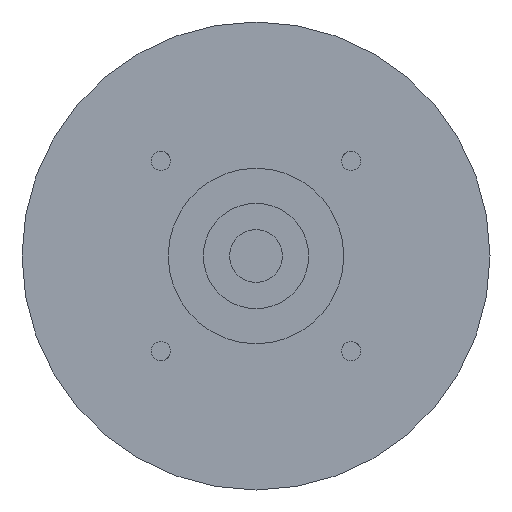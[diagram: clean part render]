
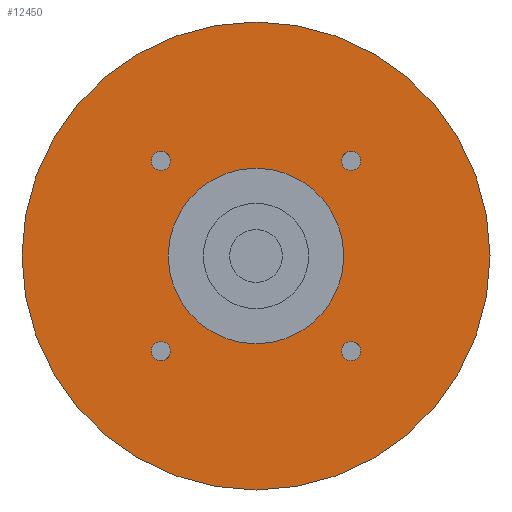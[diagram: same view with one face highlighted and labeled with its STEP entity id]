
A CAD part, left-side view. The second image highlights one B-rep face of the part: STEP entity #12450.
In plain terms, the highlighted planar face has unit normal (-1, 0, 0) as drawn and (0, 0, -1) by its records, which use the part's own axes.
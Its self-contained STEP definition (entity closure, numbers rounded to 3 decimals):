
#8680=CARTESIAN_POINT('',(14.613,-16.263,-42.2));
#8690=VERTEX_POINT('',#8680);
#8740=CARTESIAN_POINT('',(16.263,-16.263,-42.2));
#8750=DIRECTION('',(0.,0.,-1.));
#8760=DIRECTION('',(1.,0.,0.));
#8770=AXIS2_PLACEMENT_3D('',#8740,#8750,#8760);
#8780=CIRCLE('',#8770,1.65);
#8790=CARTESIAN_POINT('',(17.913,-16.263,-42.2));
#8800=VERTEX_POINT('',#8790);
#8810=EDGE_CURVE('',#8800,#8690,#8780,.T.);
#9140=CARTESIAN_POINT('',(-14.613,-16.263,-42.2));
#9150=VERTEX_POINT('',#9140);
#9200=CARTESIAN_POINT('',(-16.263,-16.263,-42.2));
#9210=DIRECTION('',(0.,0.,-1.));
#9220=DIRECTION('',(1.,0.,0.));
#9230=AXIS2_PLACEMENT_3D('',#9200,#9210,#9220);
#9240=CIRCLE('',#9230,1.65);
#9250=CARTESIAN_POINT('',(-17.913,-16.263,-42.2));
#9260=VERTEX_POINT('',#9250);
#9270=EDGE_CURVE('',#9260,#9150,#9240,.T.);
#11570=CARTESIAN_POINT('',(-40.,0.,-42.2));
#11580=VERTEX_POINT('',#11570);
#11660=CARTESIAN_POINT('',(40.,0.,-42.2));
#11670=VERTEX_POINT('',#11660);
#11700=CARTESIAN_POINT('',(0.,0.,
-42.2));
#11710=DIRECTION('',(0.,0.,1.));
#11720=DIRECTION('',(1.,0.,0.));
#11730=AXIS2_PLACEMENT_3D('',#11700,#11710,#11720);
#11740=CIRCLE('',#11730,40.);
#11750=EDGE_CURVE('',#11580,#11670,#11740,.T.);
#11800=CARTESIAN_POINT('',(0.,0.,
-42.2));
#11810=DIRECTION('',(0.,0.,-1.));
#11820=DIRECTION('',(1.,0.,0.));
#11830=AXIS2_PLACEMENT_3D('',#11800,#11810,#11820);
#11840=PLANE('',#11830);
#11850=CARTESIAN_POINT('',(-16.263,16.263,-42.2));
#11860=DIRECTION('',(0.,0.,-1.));
#11870=DIRECTION('',(1.,0.,0.));
#11880=AXIS2_PLACEMENT_3D('',#11850,#11860,#11870);
#11890=CIRCLE('',#11880,1.65);
#11900=CARTESIAN_POINT('',(-14.613,16.263,-42.2));
#11910=VERTEX_POINT('',#11900);
#11920=CARTESIAN_POINT('',(-17.913,16.263,-42.2));
#11930=VERTEX_POINT('',#11920);
#11940=EDGE_CURVE('',#11910,#11930,#11890,.T.);
#11950=ORIENTED_EDGE('',*,*,#11940,.F.);
#11960=EDGE_CURVE('',#11930,#11910,#11890,.T.);
#11970=ORIENTED_EDGE('',*,*,#11960,.F.);
#11980=EDGE_LOOP('',(#11970,#11950));
#11990=FACE_BOUND('',#11980,.T.);
#12000=CARTESIAN_POINT('',(0.,0.,
-42.2));
#12010=DIRECTION('',(0.,0.,1.));
#12020=DIRECTION('',(1.,0.,0.));
#12030=AXIS2_PLACEMENT_3D('',#12000,#12010,#12020);
#12040=CIRCLE('',#12030,15.);
#12050=CARTESIAN_POINT('',(15.,0.,-42.2));
#12060=VERTEX_POINT('',#12050);
#12070=CARTESIAN_POINT('',(-15.,0.,-42.2));
#12080=VERTEX_POINT('',#12070);
#12090=EDGE_CURVE('',#12060,#12080,#12040,.T.);
#12100=ORIENTED_EDGE('',*,*,#12090,.T.);
#12110=EDGE_CURVE('',#12080,#12060,#12040,.T.);
#12120=ORIENTED_EDGE('',*,*,#12110,.T.);
#12130=EDGE_LOOP('',(#12120,#12100));
#12140=FACE_BOUND('',#12130,.T.);
#12150=CARTESIAN_POINT('',(16.263,16.263,-42.2));
#12160=DIRECTION('',(0.,0.,-1.));
#12170=DIRECTION('',(1.,0.,0.));
#12180=AXIS2_PLACEMENT_3D('',#12150,#12160,#12170);
#12190=CIRCLE('',#12180,1.65);
#12200=CARTESIAN_POINT('',(17.913,16.263,-42.2));
#12210=VERTEX_POINT('',#12200);
#12220=CARTESIAN_POINT('',(14.613,16.263,-42.2));
#12230=VERTEX_POINT('',#12220);
#12240=EDGE_CURVE('',#12210,#12230,#12190,.T.);
#12250=ORIENTED_EDGE('',*,*,#12240,.F.);
#12260=EDGE_CURVE('',#12230,#12210,#12190,.T.);
#12270=ORIENTED_EDGE('',*,*,#12260,.F.);
#12280=EDGE_LOOP('',(#12270,#12250));
#12290=FACE_BOUND('',#12280,.T.);
#12300=ORIENTED_EDGE('',*,*,#8810,.F.);
#12310=EDGE_CURVE('',#8690,#8800,#8780,.T.);
#12320=ORIENTED_EDGE('',*,*,#12310,.F.);
#12330=EDGE_LOOP('',(#12320,#12300));
#12340=FACE_BOUND('',#12330,.T.);
#12350=EDGE_CURVE('',#9150,#9260,#9240,.T.);
#12360=ORIENTED_EDGE('',*,*,#12350,.F.);
#12370=ORIENTED_EDGE('',*,*,#9270,.F.);
#12380=EDGE_LOOP('',(#12370,#12360));
#12390=FACE_BOUND('',#12380,.T.);
#12400=EDGE_CURVE('',#11670,#11580,#11740,.T.);
#12410=ORIENTED_EDGE('',*,*,#12400,.F.);
#12420=ORIENTED_EDGE('',*,*,#11750,.F.);
#12430=EDGE_LOOP('',(#12420,#12410));
#12440=FACE_OUTER_BOUND('',#12430,.T.);
#12450=ADVANCED_FACE('',(#11990,#12140,#12290,#12340,#12390,#12440),
#11840,.T.);
